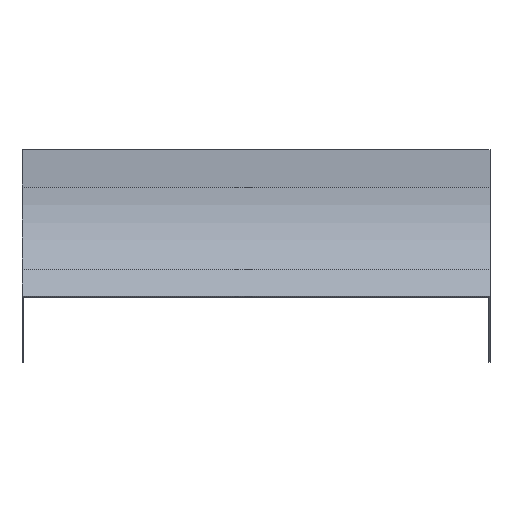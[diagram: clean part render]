
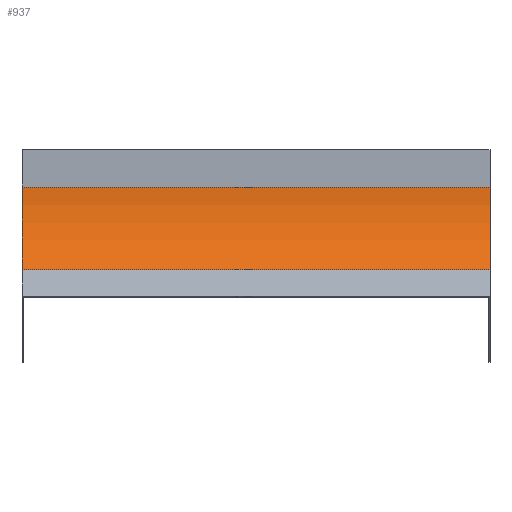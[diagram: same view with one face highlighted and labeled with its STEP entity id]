
A CAD part, front view. The second image highlights one B-rep face of the part: STEP entity #937.
In plain terms, the highlighted cylindrical face has radius 125 mm (diameter 250 mm), a partial arc.
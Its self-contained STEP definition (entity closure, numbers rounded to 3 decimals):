
#8 = LINE ( 'NONE', #1043, #553 ) ;
#27 = ORIENTED_EDGE ( 'NONE', *, *, #146, .F. ) ;
#52 = ORIENTED_EDGE ( 'NONE', *, *, #848, .F. ) ;
#103 = ORIENTED_EDGE ( 'NONE', *, *, #1574, .T. ) ;
#106 = DIRECTION ( 'NONE',  ( -1., 0., 0. ) ) ;
#144 = EDGE_CURVE ( 'NONE', #572, #1262, #1388, .T. ) ;
#146 = EDGE_CURVE ( 'NONE', #702, #1262, #1481, .T. ) ;
#152 = CIRCLE ( 'NONE', #1097, 125. ) ;
#169 = CARTESIAN_POINT ( 'NONE',  ( 250., -125., -40. ) ) ;
#180 = CARTESIAN_POINT ( 'NONE',  ( 250., 0., -40. ) ) ;
#249 = AXIS2_PLACEMENT_3D ( 'NONE', #1608, #439, #964 ) ;
#422 = DIRECTION ( 'NONE',  ( -1., 0., 0. ) ) ;
#439 = DIRECTION ( 'NONE',  ( -1., 0., 0. ) ) ;
#441 = CARTESIAN_POINT ( 'NONE',  ( -250., -36.612, -128.388 ) ) ;
#466 = DIRECTION ( 'NONE',  ( -1., 0., 0. ) ) ;
#520 = CARTESIAN_POINT ( 'NONE',  ( 250., -125., -40. ) ) ;
#553 = VECTOR ( 'NONE', #106, 1000. ) ;
#572 = VERTEX_POINT ( 'NONE', #1355 ) ;
#673 = DIRECTION ( 'NONE',  ( 0., 0., 1. ) ) ;
#702 = VERTEX_POINT ( 'NONE', #876 ) ;
#848 = EDGE_CURVE ( 'NONE', #1478, #702, #152, .T. ) ;
#876 = CARTESIAN_POINT ( 'NONE',  ( 250., -36.612, -128.388 ) ) ;
#937 = ADVANCED_FACE ( 'NONE', ( #1274 ), #1448, .F. ) ;
#964 = DIRECTION ( 'NONE',  ( 0., 0., 1. ) ) ;
#1038 = DIRECTION ( 'NONE',  ( -1., 0., 0. ) ) ;
#1043 = CARTESIAN_POINT ( 'NONE',  ( 250., 0., -40. ) ) ;
#1097 = AXIS2_PLACEMENT_3D ( 'NONE', #520, #1038, #1152 ) ;
#1127 = ORIENTED_EDGE ( 'NONE', *, *, #144, .T. ) ;
#1152 = DIRECTION ( 'NONE',  ( 0., 0., 1. ) ) ;
#1194 = CARTESIAN_POINT ( 'NONE',  ( 250., -36.612, -128.388 ) ) ;
#1238 = EDGE_LOOP ( 'NONE', ( #1127, #27, #52, #103 ) ) ;
#1262 = VERTEX_POINT ( 'NONE', #441 ) ;
#1274 = FACE_OUTER_BOUND ( 'NONE', #1238, .T. ) ;
#1331 = VECTOR ( 'NONE', #466, 1000. ) ;
#1355 = CARTESIAN_POINT ( 'NONE',  ( -250., 0., -40. ) ) ;
#1388 = CIRCLE ( 'NONE', #249, 125. ) ;
#1448 = CYLINDRICAL_SURFACE ( 'NONE', #1581, 125. ) ;
#1478 = VERTEX_POINT ( 'NONE', #180 ) ;
#1481 = LINE ( 'NONE', #1194, #1331 ) ;
#1574 = EDGE_CURVE ( 'NONE', #1478, #572, #8, .T. ) ;
#1581 = AXIS2_PLACEMENT_3D ( 'NONE', #169, #422, #673 ) ;
#1608 = CARTESIAN_POINT ( 'NONE',  ( -250., -125., -40. ) ) ;
